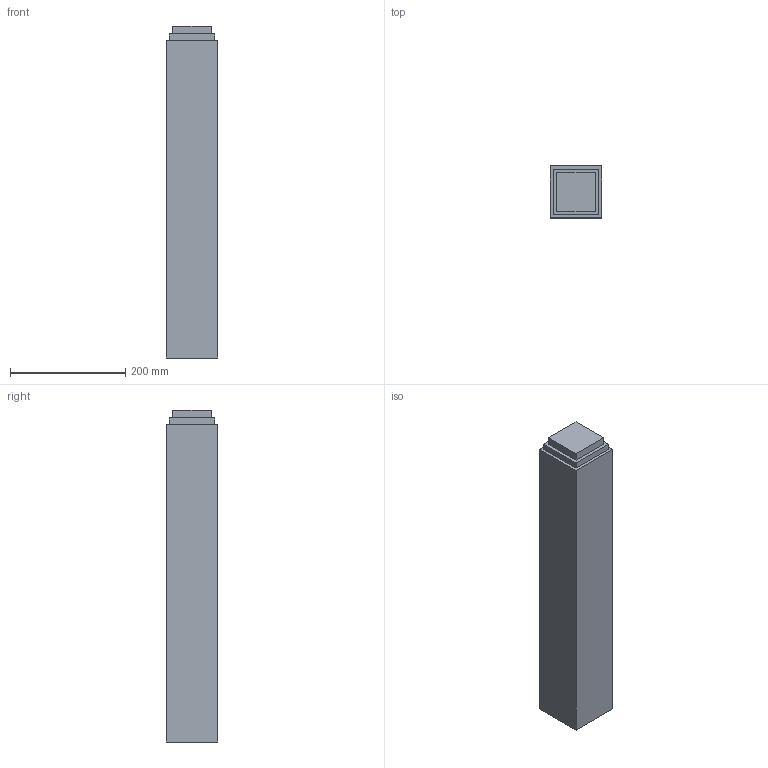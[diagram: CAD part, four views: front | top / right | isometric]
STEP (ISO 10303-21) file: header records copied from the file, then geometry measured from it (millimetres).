
FILE_DESCRIPTION( ( 'STEP AP214' ), '1' );
FILE_NAME( 'C:/Users/swati/Desktop/3D_check/QC/9186412/9186412.stp', ' ', ( ' ' ), ( ' ' ), 'PSStep 15.0.47', 'PARTsolutions', ' ' );
FILE_SCHEMA( ( 'AUTOMOTIVE_DESIGN { 1 0 10303 214 1 1 1 1 }' ) );
Length unit declared in the file: millimetre
Products named in the file (2): 95 ; _
Assembly tree (1 placements, depth 2):
  95 
    _
Bounding box: 90 x 90 x 575 mm (x, y, z)
Volume: 4587017.9 mm3; surface area: 221440.5 mm2
Topology: 1 solids, 1 shells, 16 faces, 36 edges, 24 vertices
Faces by surface type: plane 16
Entity records: 606 total; most frequent: CARTESIAN_POINT 78, DIRECTION 72, ORIENTED_EDGE 72, EDGE_CURVE 36, LINE 36, VECTOR 36, VERTEX_POINT 24, AXIS2_PLACEMENT_3D 18
